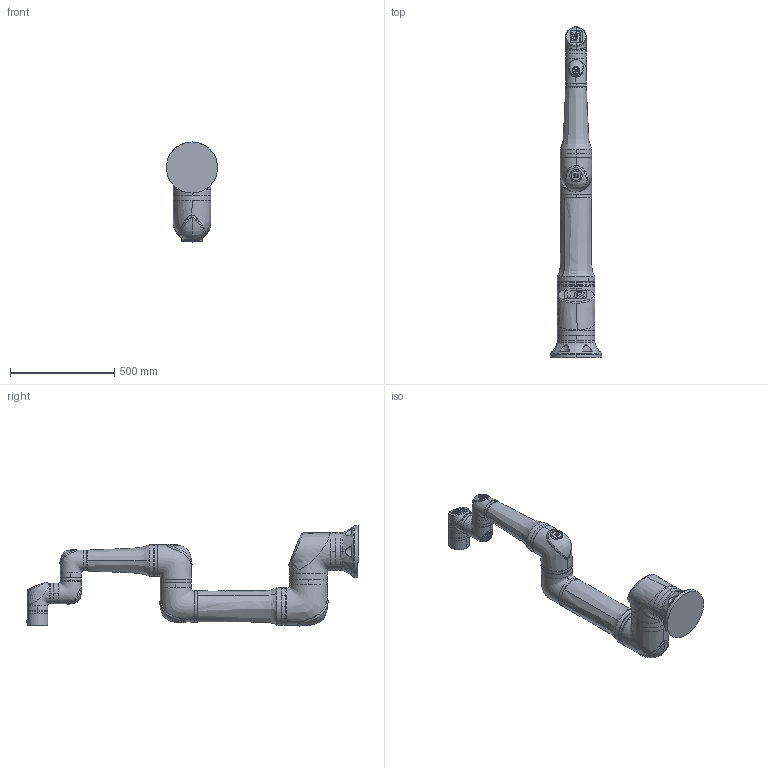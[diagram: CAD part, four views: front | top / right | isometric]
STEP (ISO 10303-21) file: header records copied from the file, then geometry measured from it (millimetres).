
FILE_DESCRIPTION (( 'STEP AP214' ), '1' );
FILE_NAME ('704-244-01_filled_A.step', '2024-01-05T09:56:09', ( '' ), ( '' ), 'SwSTEP 2.0', 'SolidWorks 2020', '' );
FILE_SCHEMA (( 'AUTOMOTIVE_DESIGN' ));
Length unit declared in the file: millimetre
Products named in the file (10): C-2003908; C-2007588; C-2007307; C-2003903; 704-251-01_filled; C-2003904; C-2007308; 704-250-01_filled; 704-244-01_filled_A; C-2003907
Assembly tree (9 placements, depth 2):
  704-244-01_filled_A
    C-2003903
    C-2003904
    C-2007307
    C-2007308
    C-2003907
    C-2003908
    704-250-01_filled
    704-251-01_filled
    C-2007588
Bounding box: 245 x 1591.77 x 479.5 mm (x, y, z)
Volume: 38901251.8 mm3; surface area: 1442974.2 mm2
Topology: 11 solids, 15 shells, 1322 faces, 3235 edges, 1988 vertices
Faces by surface type: bspline 856, cylinder 215, plane 101, cone 92, torus 58
Entity records: 105608 total; most frequent: CARTESIAN_POINT 70983, ORIENTED_EDGE 6424, EDGE_CURVE 3212, DIRECTION 3177, VERTEX_POINT 1988, B_SPLINE_CURVE_WITH_KNOTS 1742, EDGE_LOOP 1396, ADVANCED_FACE 1322
